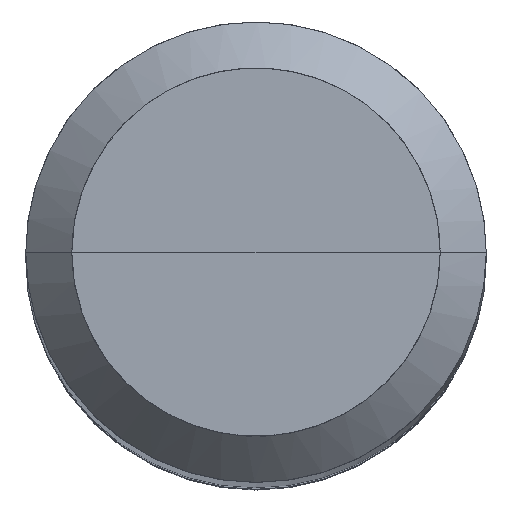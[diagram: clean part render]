
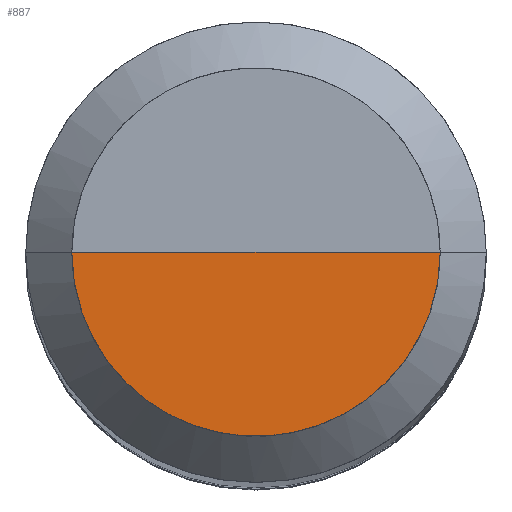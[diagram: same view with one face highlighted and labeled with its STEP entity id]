
A CAD part, top view. The second image highlights one B-rep face of the part: STEP entity #887.
In plain terms, the highlighted free-form (B-spline) face has degree [1, 2] with [2, 5] control points.
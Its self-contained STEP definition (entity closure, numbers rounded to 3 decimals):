
#530=CARTESIAN_POINT('',(8.0,0.0,131.268));
#534=CARTESIAN_POINT('',(-8.0,0.0,131.268));
#535=CARTESIAN_POINT('',(0.0,0.0,131.268));
#548=CARTESIAN_POINT('',(-8.0,-8.0,131.268));
#549=CARTESIAN_POINT('',(0.0,-8.0,131.268));
#550=CARTESIAN_POINT('',(8.0,-8.0,131.268));
#872=(
BOUNDED_SURFACE()
B_SPLINE_SURFACE(1,2,(
(#534,#548,#549,#550,#530),
(#535,#535,#535,#535,#535)
), .UNSPECIFIED.,.F.,.F.,.F.)
B_SPLINE_SURFACE_WITH_KNOTS((2,2),(3,2,3),(
0.0,1.0),(
0.0,0.5,1.0), .UNSPECIFIED.)
GEOMETRIC_REPRESENTATION_ITEM()
RATIONAL_B_SPLINE_SURFACE(((1.0,0.707,1.0,0.707,1.0),
(1.0,0.707,1.0,0.707,1.0)
))
REPRESENTATION_ITEM('')
SURFACE()
);
#873=(
BOUNDED_CURVE()
B_SPLINE_CURVE(2,(#530,#550,#549,#548,#534),.UNSPECIFIED.,.F.,.F.)
B_SPLINE_CURVE_WITH_KNOTS((3,2,3),
(0.0,0.5,1.0),.UNSPECIFIED.)
CURVE()
GEOMETRIC_REPRESENTATION_ITEM()
RATIONAL_B_SPLINE_CURVE((1.0,0.707,1.0,0.707,1.0))
REPRESENTATION_ITEM('')
);
#874=(
BOUNDED_CURVE()
B_SPLINE_CURVE(1,(#534,#535),.UNSPECIFIED.,.F.,.F.)
B_SPLINE_CURVE_WITH_KNOTS((2,2),
(0.0,1.0),.UNSPECIFIED.)
CURVE()
GEOMETRIC_REPRESENTATION_ITEM()
RATIONAL_B_SPLINE_CURVE((1.0,1.0))
REPRESENTATION_ITEM('')
);
#875=(
BOUNDED_CURVE()
B_SPLINE_CURVE(1,(#535,#530),.UNSPECIFIED.,.F.,.F.)
B_SPLINE_CURVE_WITH_KNOTS((2,2),
(0.0,1.0),.UNSPECIFIED.)
CURVE()
GEOMETRIC_REPRESENTATION_ITEM()
RATIONAL_B_SPLINE_CURVE((1.0,1.0))
REPRESENTATION_ITEM('')
);
#876=VERTEX_POINT('',#530);
#877=VERTEX_POINT('',#534);
#878=VERTEX_POINT('',#535);
#879=EDGE_CURVE('',#876,#877,#873,.T.);
#880=EDGE_CURVE('',#877,#878,#874,.T.);
#881=EDGE_CURVE('',#878,#876,#875,.T.);
#882=ORIENTED_EDGE('',*,*,#879,.T.);
#883=ORIENTED_EDGE('',*,*,#880,.T.);
#884=ORIENTED_EDGE('',*,*,#881,.T.);
#885=EDGE_LOOP('',(#882,#883,#884));
#886=FACE_OUTER_BOUND('',#885,.T.);
#887=ADVANCED_FACE('',(#886),#872,.T.);
